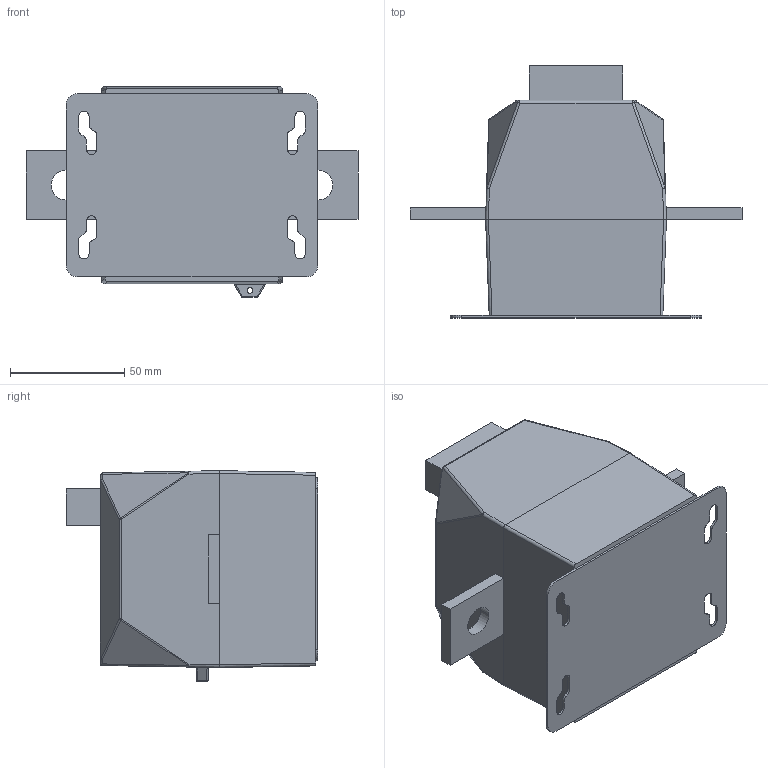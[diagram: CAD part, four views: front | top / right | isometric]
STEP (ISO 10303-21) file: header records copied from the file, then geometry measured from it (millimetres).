
FILE_DESCRIPTION((''),'2;1');
FILE_NAME('DI_TRMV210_MD12','2024-09-17T11:02:18',('lesquembri'),(''),'CREO PARAMETRIC BY PTC INC, 2018260','CREO PARAMETRIC BY PTC INC, 2018260','');
FILE_SCHEMA(('AUTOMOTIVE_DESIGN { 1 0 10303 214 1 1 1 1 }'));
Length unit declared in the file: millimetre
Products named in the file (1): DI_TRMV210_MD12
Bounding box: 145 x 110 x 92 mm (x, y, z)
Volume: 631409 mm3; surface area: 52921.4 mm2
Topology: 1 solids, 1 shells, 170 faces, 417 edges, 252 vertices
Faces by surface type: cylinder 75, plane 73, sphere 18, bspline 4
Entity records: 8253 total; most frequent: COLOUR_RGB 1575, CARTESIAN_POINT 1153, DIRECTION 859, ORIENTED_EDGE 834, PRESENTATION_STYLE_ASSIGNMENT 418, STYLED_ITEM 418, CURVE_STYLE 417, EDGE_CURVE 417
